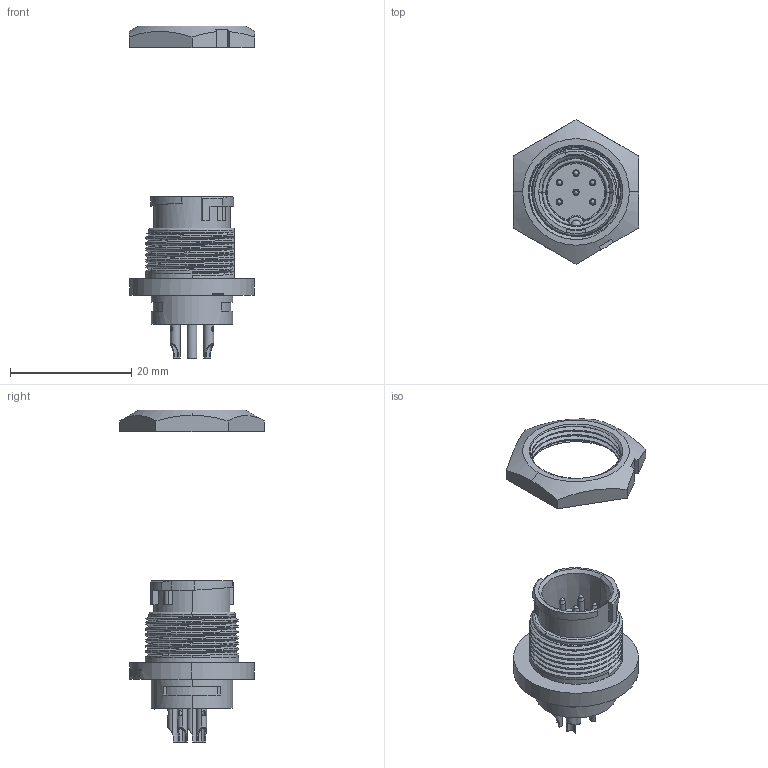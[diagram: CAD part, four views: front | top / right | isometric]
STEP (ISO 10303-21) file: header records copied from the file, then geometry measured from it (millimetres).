
FILE_DESCRIPTION (( 'STEP AP214' ), '1' );
FILE_NAME ('EN3P6MX.STEP', '2014-07-02T20:31:02', ( '' ), ( '' ), 'SwSTEP 2.0', 'SolidWorks 2014', '' );
FILE_SCHEMA (( 'AUTOMOTIVE_DESIGN' ));
Length unit declared in the file: inch
Products named in the file (1): EN3P6MX
Bounding box: 20.64 x 23.83 x 54.79 mm (x, y, z)
Volume: 3495.8 mm3; surface area: 3455.7 mm2
Topology: 2 solids, 2 shells, 481 faces, 1333 edges, 881 vertices
Faces by surface type: plane 165, cylinder 146, bspline 125, cone 35, torus 10
Entity records: 33540 total; most frequent: CARTESIAN_POINT 21860, ORIENTED_EDGE 2664, DIRECTION 1869, EDGE_CURVE 1332, VERTEX_POINT 881, AXIS2_PLACEMENT_3D 652, VECTOR 565, LINE 565
